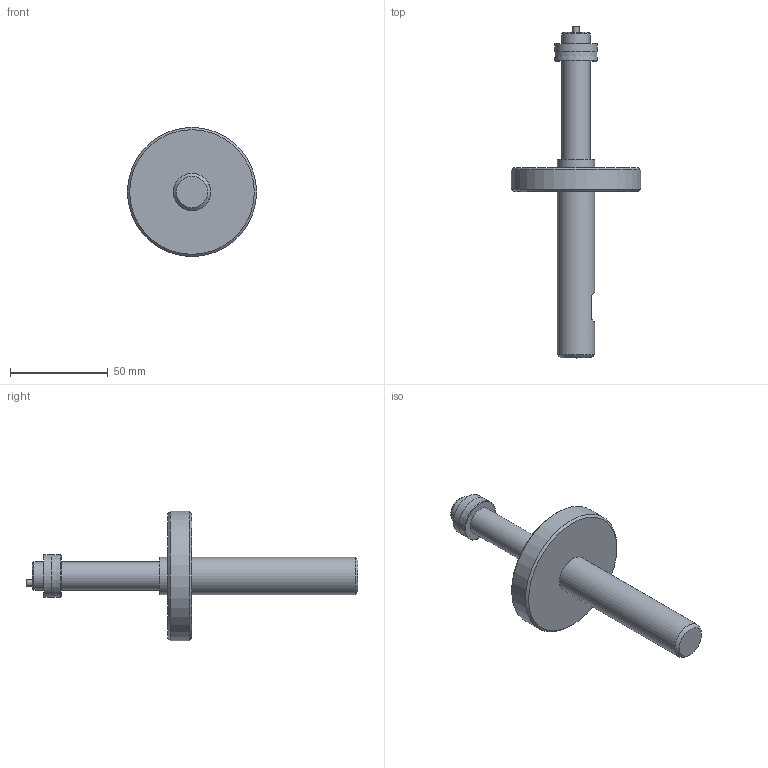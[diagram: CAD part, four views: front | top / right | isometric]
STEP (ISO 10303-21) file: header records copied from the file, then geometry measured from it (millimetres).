
FILE_DESCRIPTION (( 'STEP AP203' ), '1' );
FILE_NAME ('AF56-SIMPLE - AF56-14.50-22.00M.step', '2025-01-22T13:30:51', ( '' ), ( '' ), 'SwSTEP 2.0', 'SolidWorks 2024', '' );
FILE_SCHEMA (( 'CONFIG_CONTROL_DESIGN' ));
Length unit declared in the file: inch
Products named in the file (1): AF56-SIMPLE - AF56-14.50-22.00M
Bounding box: 66.04 x 169.8 x 66.04 mm (x, y, z)
Volume: 79128.9 mm3; surface area: 17958.2 mm2
Topology: 1 solids, 1 shells, 24 faces, 40 edges, 25 vertices
Faces by surface type: plane 11, cylinder 7, cone 5, torus 1
Full cylindrical faces by diameter (mm): 3.175 x1, 14.376 x2, 19.05 x2, 21.494 x1, 66.04 x1
Entity records: 569 total; most frequent: DIRECTION 94, CARTESIAN_POINT 81, ORIENTED_EDGE 52, AXIS2_PLACEMENT_3D 45, EDGE_LOOP 44, FACE_OUTER_BOUND 32, EDGE_CURVE 26, VERTEX_POINT 24
